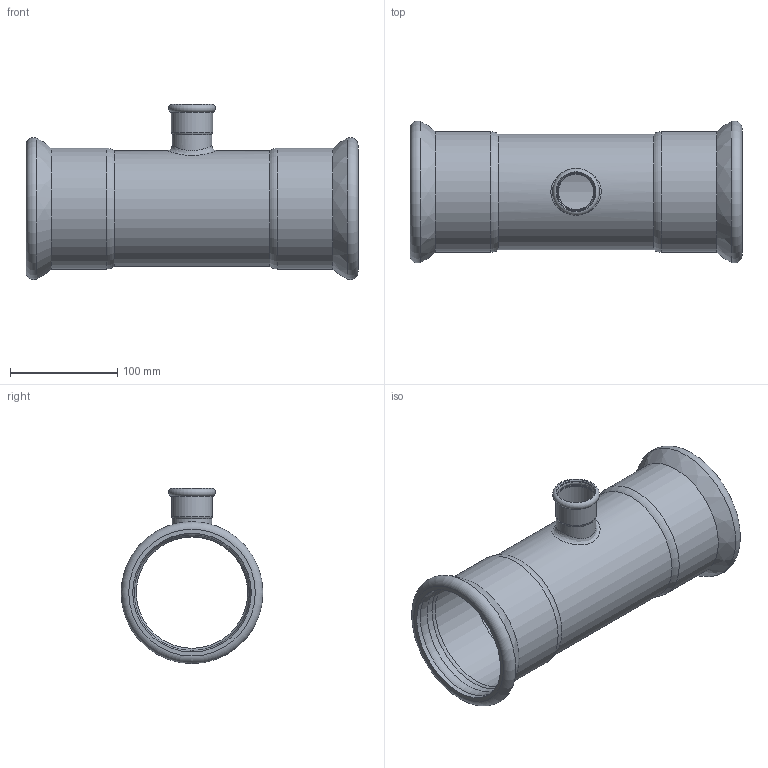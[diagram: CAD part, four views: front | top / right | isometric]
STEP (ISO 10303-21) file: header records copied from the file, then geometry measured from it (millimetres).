
FILE_DESCRIPTION(/* description */ ('TEE RIDOTTO 108-35-108'),/* implementation_level */ '2;1');
FILE_NAME(/* name */ 'T:\A_ARTICOLI\ARTICOLI PRODOTTI_WEB\Articoli_STEELPRES_WEB\Temporary Step\392108035_Steelpres.ipt.step',/* time_stamp */ '2016-01-20T11:57:20+01:00',/* author */ ('Ghirlinghelli Diego'),/* organization */ (''),/* preprocessor_version */ 'ST-DEVELOPER v15.2',/* originating_system */ 'Autodesk Inventor 2014',/* authorisation */ 'R.M. S.p.A. si riserva a termini di legge la proprietà del presente disegno con divieto di riprodurlo o comunicarlo a terzi senza sua autorizzazione scritta');
FILE_SCHEMA (('AUTOMOTIVE_DESIGN { 1 0 10303 214 3 1 1 }'));
Length unit declared in the file: millimetre
Products named in the file (1): 392108035_Steelpres
Bounding box: 310 x 132.47 x 163.53 mm (x, y, z)
Volume: 331256 mm3; surface area: 231567.4 mm2
Topology: 1 solids, 1 shells, 40 faces, 93 edges, 56 vertices
Faces by surface type: cylinder 17, torus 15, bspline 4, plane 3, cone 1
Full cylindrical faces by diameter (mm): 33 x1, 34 x1, 35.4 x1, 35.8 x2, 37 x1, 38.4 x1, 104 x1, 108 x1, 108.8 x2, 110.7 x4, 112.8 x2
Entity records: 1330 total; most frequent: CARTESIAN_POINT 589, DIRECTION 160, ORIENTED_EDGE 98, AXIS2_PLACEMENT_3D 80, EDGE_LOOP 78, EDGE_CURVE 49, VERTEX_POINT 45, CIRCLE 43
